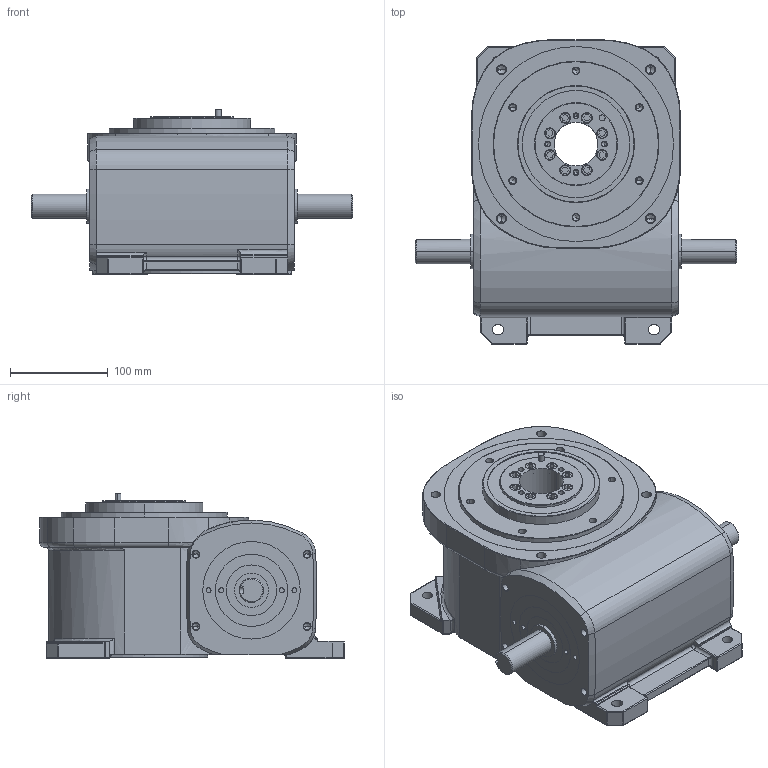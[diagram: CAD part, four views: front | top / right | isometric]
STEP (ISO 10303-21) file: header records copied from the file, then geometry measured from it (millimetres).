
FILE_DESCRIPTION((''),'2;1');
FILE_NAME('11AD','2015-01-15T',('松仔'),(''),'PRO/ENGINEER BY PARAMETRIC TECHNOLOGY CORPORATION, 2013430','PRO/ENGINEER BY PARAMETRIC TECHNOLOGY CORPORATION, 2013430','');
FILE_SCHEMA(('CONFIG_CONTROL_DESIGN'));
Length unit declared in the file: millimetre
Products named in the file (1): 11AD
Bounding box: 329.84 x 312 x 169.3 mm (x, y, z)
Volume: 7520909.2 mm3; surface area: 317379.2 mm2
Topology: 1 solids, 23 shells, 673 faces, 1584 edges, 984 vertices
Faces by surface type: cylinder 301, plane 200, cone 64, torus 48, sphere 34, bspline 24, extrusion 2
Entity records: 20868 total; most frequent: CARTESIAN_POINT 5244, DIRECTION 3498, ORIENTED_EDGE 2992, EDGE_CURVE 1540, AXIS2_PLACEMENT_3D 1421, VERTEX_POINT 984, EDGE_LOOP 798, CIRCLE 773
